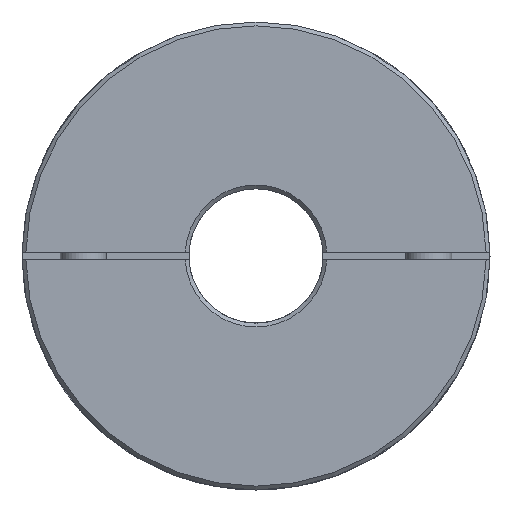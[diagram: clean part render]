
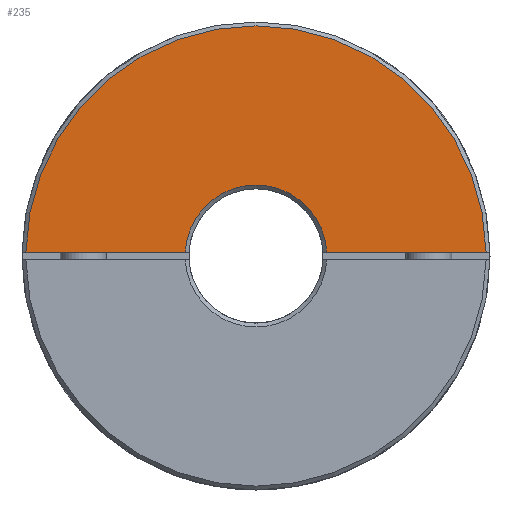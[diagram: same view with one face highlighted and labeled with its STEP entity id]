
A CAD part, left-side view. The second image highlights one B-rep face of the part: STEP entity #235.
In plain terms, the highlighted planar face has unit normal (-1, 0, 0) as drawn and (1, 0, 0) by its records, which use the part's own axes.
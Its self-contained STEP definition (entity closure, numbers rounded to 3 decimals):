
#235 = ADVANCED_FACE( '', ( #464 ), #465, .T. );
#464 = FACE_OUTER_BOUND( '', #795, .T. );
#465 = PLANE( '', #796 );
#795 = EDGE_LOOP( '', ( #1123, #1124, #1125, #1126 ) );
#796 = AXIS2_PLACEMENT_3D( '', #1127, #1128, #1129 );
#1123 = ORIENTED_EDGE( '', *, *, #1701, .F. );
#1124 = ORIENTED_EDGE( '', *, *, #1702, .T. );
#1125 = ORIENTED_EDGE( '', *, *, #1703, .F. );
#1126 = ORIENTED_EDGE( '', *, *, #1704, .T. );
#1127 = CARTESIAN_POINT( '', ( 36., 0., 61. ) );
#1128 = DIRECTION( '', ( 1., 0., 0. ) );
#1129 = DIRECTION( '', ( 0., 0., -1. ) );
#1701 = EDGE_CURVE( '', #1924, #1925, #1926, .T. );
#1702 = EDGE_CURVE( '', #1924, #1927, #1928, .T. );
#1703 = EDGE_CURVE( '', #1929, #1927, #1930, .T. );
#1704 = EDGE_CURVE( '', #1929, #1925, #1931, .F. );
#1924 = VERTEX_POINT( '', #2238 );
#1925 = VERTEX_POINT( '', #2239 );
#1926 = LINE( '', #2240, #2241 );
#1927 = VERTEX_POINT( '', #2242 );
#1928 = CIRCLE( '', #2243, 60. );
#1929 = VERTEX_POINT( '', #2244 );
#1930 = LINE( '', #2245, #2246 );
#1931 = CIRCLE( '', #2247, 18.5 );
#2238 = CARTESIAN_POINT( '', ( 36., 59.992, 1. ) );
#2239 = CARTESIAN_POINT( '', ( 36., 18.473, 1. ) );
#2240 = CARTESIAN_POINT( '', ( 36., 0., 1. ) );
#2241 = VECTOR( '', #2938, 1000. );
#2242 = CARTESIAN_POINT( '', ( 36., -59.992, 1. ) );
#2243 = AXIS2_PLACEMENT_3D( '', #2939, #2940, #2941 );
#2244 = CARTESIAN_POINT( '', ( 36., -18.473, 1. ) );
#2245 = CARTESIAN_POINT( '', ( 36., 0., 1. ) );
#2246 = VECTOR( '', #2942, 1000. );
#2247 = AXIS2_PLACEMENT_3D( '', #2943, #2944, #2945 );
#2938 = DIRECTION( '', ( 0., -1., 0. ) );
#2939 = CARTESIAN_POINT( '', ( 36., 0., 0. ) );
#2940 = DIRECTION( '', ( 1., 0., 0. ) );
#2941 = DIRECTION( '', ( 0., 0., -1. ) );
#2942 = DIRECTION( '', ( 0., -1., 0. ) );
#2943 = CARTESIAN_POINT( '', ( 36., 0., 0. ) );
#2944 = DIRECTION( '', ( 1., 0., 0. ) );
#2945 = DIRECTION( '', ( 0., 0., -1. ) );
